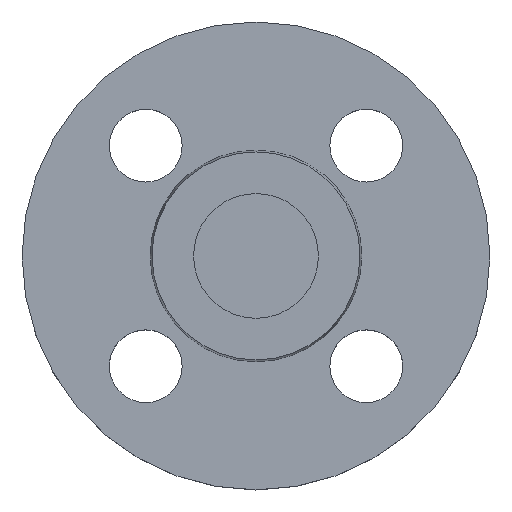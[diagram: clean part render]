
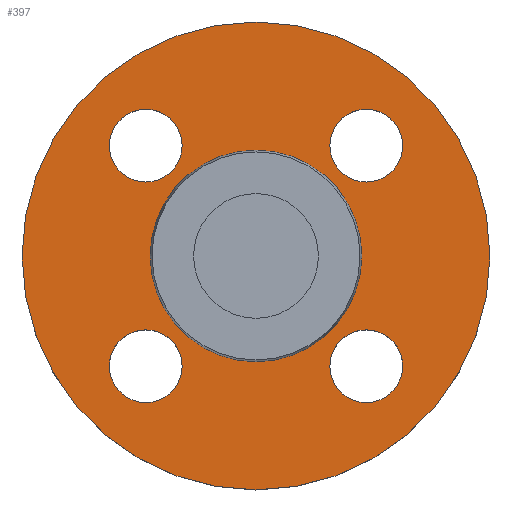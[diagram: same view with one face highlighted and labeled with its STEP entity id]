
A CAD part, top view. The second image highlights one B-rep face of the part: STEP entity #397.
In plain terms, the highlighted planar face has unit normal (0, 0, 1).
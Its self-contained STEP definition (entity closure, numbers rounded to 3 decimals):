
#61 = CARTESIAN_POINT ( 'NONE',  ( -14.213, -21.213, -2. ) ) ;
#64 = CARTESIAN_POINT ( 'NONE',  ( 45., 0., -2. ) ) ;
#65 = AXIS2_PLACEMENT_3D ( 'NONE', #276, #271, #290 ) ;
#68 = EDGE_CURVE ( 'NONE', #695, #452, #293, .T. ) ;
#72 = CARTESIAN_POINT ( 'NONE',  ( 14.213, -21.213, -2. ) ) ;
#80 = EDGE_CURVE ( 'NONE', #674, #691, #521, .T. ) ;
#82 = CARTESIAN_POINT ( 'NONE',  ( -45., 0., -2. ) ) ;
#87 = CIRCLE ( 'NONE', #100, 7. ) ;
#92 = CARTESIAN_POINT ( 'NONE',  ( 20.353, 0., -2. ) ) ;
#100 = AXIS2_PLACEMENT_3D ( 'NONE', #752, #753, #755 ) ;
#114 = CARTESIAN_POINT ( 'NONE',  ( 28.213, 21.213, -2. ) ) ;
#115 = DIRECTION ( 'NONE',  ( 1., 0., 0. ) ) ;
#116 = DIRECTION ( 'NONE',  ( 0., 0., -1. ) ) ;
#118 = CIRCLE ( 'NONE', #568, 20.353 ) ;
#119 = CARTESIAN_POINT ( 'NONE',  ( 21.213, 21.213, -2. ) ) ;
#130 = DIRECTION ( 'NONE',  ( 1., 0., 0. ) ) ;
#132 = DIRECTION ( 'NONE',  ( 0., 0., -1. ) ) ;
#133 = CARTESIAN_POINT ( 'NONE',  ( 21.213, -21.213, -2. ) ) ;
#139 = EDGE_CURVE ( 'NONE', #635, #451, #87, .T. ) ;
#168 = ORIENTED_EDGE ( 'NONE', *, *, #385, .T. ) ;
#200 = CARTESIAN_POINT ( 'NONE',  ( -14.213, 21.213, -2. ) ) ;
#207 = CARTESIAN_POINT ( 'NONE',  ( -28.213, -21.213, -2. ) ) ;
#208 = CARTESIAN_POINT ( 'NONE',  ( 14.213, 21.213, -2. ) ) ;
#209 = DIRECTION ( 'NONE',  ( 1., 0., 0. ) ) ;
#213 = DIRECTION ( 'NONE',  ( 0., 0., -1. ) ) ;
#214 = AXIS2_PLACEMENT_3D ( 'NONE', #731, #733, #734 ) ;
#216 = CARTESIAN_POINT ( 'NONE',  ( -21.213, 21.213, -2. ) ) ;
#243 = FACE_BOUND ( 'NONE', #692, .T. ) ;
#244 = FACE_BOUND ( 'NONE', #603, .T. ) ;
#247 = FACE_BOUND ( 'NONE', #530, .T. ) ;
#249 = EDGE_CURVE ( 'NONE', #433, #464, #687, .T. ) ;
#255 = CARTESIAN_POINT ( 'NONE',  ( 21.213, -21.213, -2. ) ) ;
#259 = DIRECTION ( 'NONE',  ( 1., 0., 0. ) ) ;
#269 = PLANE ( 'NONE',  #65 ) ;
#270 = CIRCLE ( 'NONE', #477, 7. ) ;
#271 = DIRECTION ( 'NONE',  ( 0., 0., 1. ) ) ;
#276 = CARTESIAN_POINT ( 'NONE',  ( 20.353, 0., -2. ) ) ;
#284 = CARTESIAN_POINT ( 'NONE',  ( 0., 0., -2. ) ) ;
#289 = CARTESIAN_POINT ( 'NONE',  ( 0., 0., -2. ) ) ;
#290 = DIRECTION ( 'NONE',  ( 1., 0., 0. ) ) ;
#293 = CIRCLE ( 'NONE', #374, 7. ) ;
#298 = FACE_OUTER_BOUND ( 'NONE', #683, .T. ) ;
#300 = CARTESIAN_POINT ( 'NONE',  ( -21.213, -21.213, -2. ) ) ;
#302 = DIRECTION ( 'NONE',  ( 0., 0., -1. ) ) ;
#305 = DIRECTION ( 'NONE',  ( 0., 0., -1. ) ) ;
#306 = FACE_BOUND ( 'NONE', #653, .T. ) ;
#313 = CIRCLE ( 'NONE', #327, 45. ) ;
#314 = DIRECTION ( 'NONE',  ( -1., 0., 0. ) ) ;
#316 = DIRECTION ( 'NONE',  ( 0., 0., -1. ) ) ;
#321 = CARTESIAN_POINT ( 'NONE',  ( -28.213, 21.213, -2. ) ) ;
#322 = DIRECTION ( 'NONE',  ( 1., 0., 0. ) ) ;
#327 = AXIS2_PLACEMENT_3D ( 'NONE', #289, #640, #449 ) ;
#328 = CIRCLE ( 'NONE', #329, 7. ) ;
#329 = AXIS2_PLACEMENT_3D ( 'NONE', #300, #305, #322 ) ;
#331 = AXIS2_PLACEMENT_3D ( 'NONE', #284, #302, #314 ) ;
#334 = CARTESIAN_POINT ( 'NONE',  ( 28.213, -21.213, -2. ) ) ;
#338 = AXIS2_PLACEMENT_3D ( 'NONE', #119, #116, #115 ) ;
#341 = CIRCLE ( 'NONE', #382, 7. ) ;
#358 = EDGE_CURVE ( 'NONE', #691, #674, #313, .T. ) ;
#359 = EDGE_CURVE ( 'NONE', #452, #695, #328, .T. ) ;
#374 = AXIS2_PLACEMENT_3D ( 'NONE', #723, #724, #725 ) ;
#382 = AXIS2_PLACEMENT_3D ( 'NONE', #216, #213, #209 ) ;
#385 = EDGE_CURVE ( 'NONE', #664, #429, #118, .T. ) ;
#397 = ADVANCED_FACE ( 'NONE', ( #599, #244, #247, #243, #306, #298 ), #269, .T. ) ;
#398 = ORIENTED_EDGE ( 'NONE', *, *, #403, .T. ) ;
#403 = EDGE_CURVE ( 'NONE', #429, #664, #756, .T. ) ;
#407 = EDGE_CURVE ( 'NONE', #680, #424, #270, .T. ) ;
#424 = VERTEX_POINT ( 'NONE', #334 ) ;
#429 = VERTEX_POINT ( 'NONE', #581 ) ;
#433 = VERTEX_POINT ( 'NONE', #321 ) ;
#447 = EDGE_CURVE ( 'NONE', #464, #433, #341, .T. ) ;
#449 = DIRECTION ( 'NONE',  ( -1., 0., 0. ) ) ;
#451 = VERTEX_POINT ( 'NONE', #208 ) ;
#452 = VERTEX_POINT ( 'NONE', #207 ) ;
#464 = VERTEX_POINT ( 'NONE', #200 ) ;
#477 = AXIS2_PLACEMENT_3D ( 'NONE', #255, #316, #259 ) ;
#481 = CARTESIAN_POINT ( 'NONE',  ( 0., 0., -2. ) ) ;
#484 = DIRECTION ( 'NONE',  ( 0., 0., -1. ) ) ;
#486 = DIRECTION ( 'NONE',  ( -1., 0., 0. ) ) ;
#521 = CIRCLE ( 'NONE', #214, 45. ) ;
#530 = EDGE_LOOP ( 'NONE', ( #552, #553 ) ) ;
#546 = ORIENTED_EDGE ( 'NONE', *, *, #604, .T. ) ;
#547 = ORIENTED_EDGE ( 'NONE', *, *, #407, .T. ) ;
#549 = ORIENTED_EDGE ( 'NONE', *, *, #68, .T. ) ;
#550 = ORIENTED_EDGE ( 'NONE', *, *, #359, .T. ) ;
#552 = ORIENTED_EDGE ( 'NONE', *, *, #447, .T. ) ;
#553 = ORIENTED_EDGE ( 'NONE', *, *, #249, .T. ) ;
#556 = CIRCLE ( 'NONE', #338, 7. ) ;
#557 = ORIENTED_EDGE ( 'NONE', *, *, #139, .T. ) ;
#558 = ORIENTED_EDGE ( 'NONE', *, *, #617, .T. ) ;
#559 = ORIENTED_EDGE ( 'NONE', *, *, #358, .F. ) ;
#561 = ORIENTED_EDGE ( 'NONE', *, *, #80, .F. ) ;
#568 = AXIS2_PLACEMENT_3D ( 'NONE', #481, #484, #486 ) ;
#581 = CARTESIAN_POINT ( 'NONE',  ( -20.353, 0., -2. ) ) ;
#599 = FACE_BOUND ( 'NONE', #668, .T. ) ;
#603 = EDGE_LOOP ( 'NONE', ( #549, #550 ) ) ;
#604 = EDGE_CURVE ( 'NONE', #424, #680, #775, .T. ) ;
#617 = EDGE_CURVE ( 'NONE', #451, #635, #556, .T. ) ;
#635 = VERTEX_POINT ( 'NONE', #114 ) ;
#640 = DIRECTION ( 'NONE',  ( 0., 0., -1. ) ) ;
#653 = EDGE_LOOP ( 'NONE', ( #398, #168 ) ) ;
#658 = AXIS2_PLACEMENT_3D ( 'NONE', #133, #132, #130 ) ;
#664 = VERTEX_POINT ( 'NONE', #92 ) ;
#668 = EDGE_LOOP ( 'NONE', ( #546, #547 ) ) ;
#674 = VERTEX_POINT ( 'NONE', #82 ) ;
#680 = VERTEX_POINT ( 'NONE', #72 ) ;
#683 = EDGE_LOOP ( 'NONE', ( #559, #561 ) ) ;
#687 = CIRCLE ( 'NONE', #770, 7. ) ;
#691 = VERTEX_POINT ( 'NONE', #64 ) ;
#692 = EDGE_LOOP ( 'NONE', ( #557, #558 ) ) ;
#695 = VERTEX_POINT ( 'NONE', #61 ) ;
#723 = CARTESIAN_POINT ( 'NONE',  ( -21.213, -21.213, -2. ) ) ;
#724 = DIRECTION ( 'NONE',  ( 0., 0., -1. ) ) ;
#725 = DIRECTION ( 'NONE',  ( 1., 0., 0. ) ) ;
#731 = CARTESIAN_POINT ( 'NONE',  ( 0., 0., -2. ) ) ;
#733 = DIRECTION ( 'NONE',  ( 0., 0., -1. ) ) ;
#734 = DIRECTION ( 'NONE',  ( -1., 0., 0. ) ) ;
#752 = CARTESIAN_POINT ( 'NONE',  ( 21.213, 21.213, -2. ) ) ;
#753 = DIRECTION ( 'NONE',  ( 0., 0., -1. ) ) ;
#755 = DIRECTION ( 'NONE',  ( 1., 0., 0. ) ) ;
#756 = CIRCLE ( 'NONE', #331, 20.353 ) ;
#770 = AXIS2_PLACEMENT_3D ( 'NONE', #807, #809, #811 ) ;
#775 = CIRCLE ( 'NONE', #658, 7. ) ;
#807 = CARTESIAN_POINT ( 'NONE',  ( -21.213, 21.213, -2. ) ) ;
#809 = DIRECTION ( 'NONE',  ( 0., 0., -1. ) ) ;
#811 = DIRECTION ( 'NONE',  ( 1., 0., 0. ) ) ;
